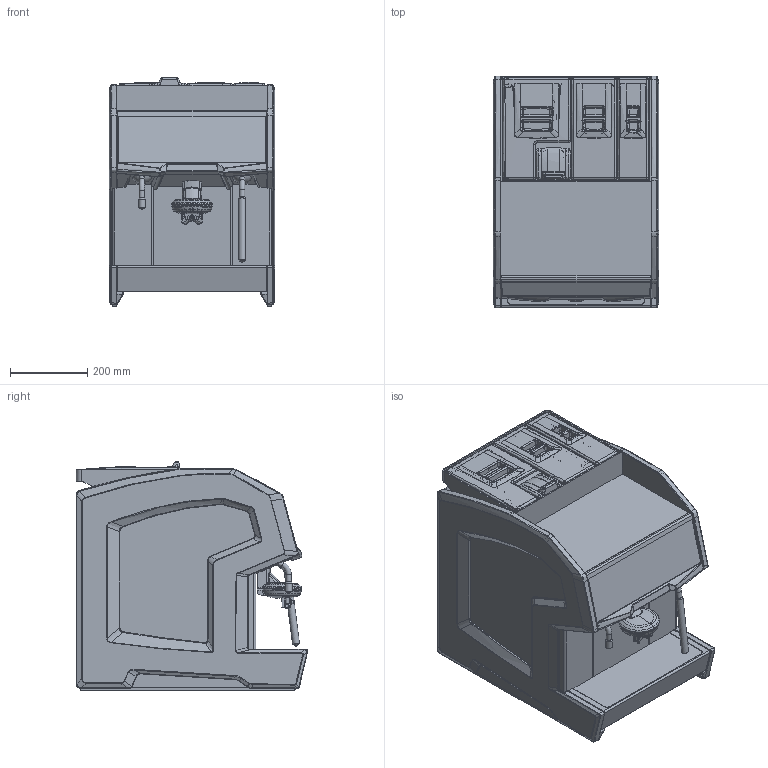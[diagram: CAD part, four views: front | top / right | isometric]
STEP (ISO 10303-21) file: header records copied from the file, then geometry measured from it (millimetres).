
FILE_DESCRIPTION(/* description */ ('Unknown'),/* implementation_level */ '2;1');
FILE_NAME(/* name */ '20180312_Cameo',/* time_stamp */ '2018-03-12T16:23:56+01:00',/* author */ ('Unknown'),/* organization */ ('Unknown'),/* preprocessor_version */ 'ST-DEVELOPER v16.7',/* originating_system */ 'DEX',/* authorisation */ $);
FILE_SCHEMA (('AUTOMOTIVE_DESIGN {1 0 10303 214 3 1 1}'));
Products named in the file (1): 103902_Skin-V6_2018
Bounding box: 430 x 600.01 x 591.73 mm (x, y, z)
Volume: 12327889.9 mm3; surface area: 7199681 mm2
Topology: 1 solids, 28 shells, 3418 faces, 9011 edges, 5606 vertices
Faces by surface type: bspline 1418, plane 1139, cylinder 626, cone 130, sphere 70, torus 35
Full cylindrical faces by diameter (mm): 2 x1, 6 x4, 10 x2, 14 x4, 18 x2, 93.646 x1
Entity records: 230201 total; most frequent: CARTESIAN_POINT 133855, ORIENTED_EDGE 17694, DIRECTION 10668, EDGE_CURVE 8847, VERTEX_POINT 5563, B_SPLINE_CURVE_WITH_KNOTS 3816, AXIS2_PLACEMENT_3D 3659, FACE_BOUND 3522
